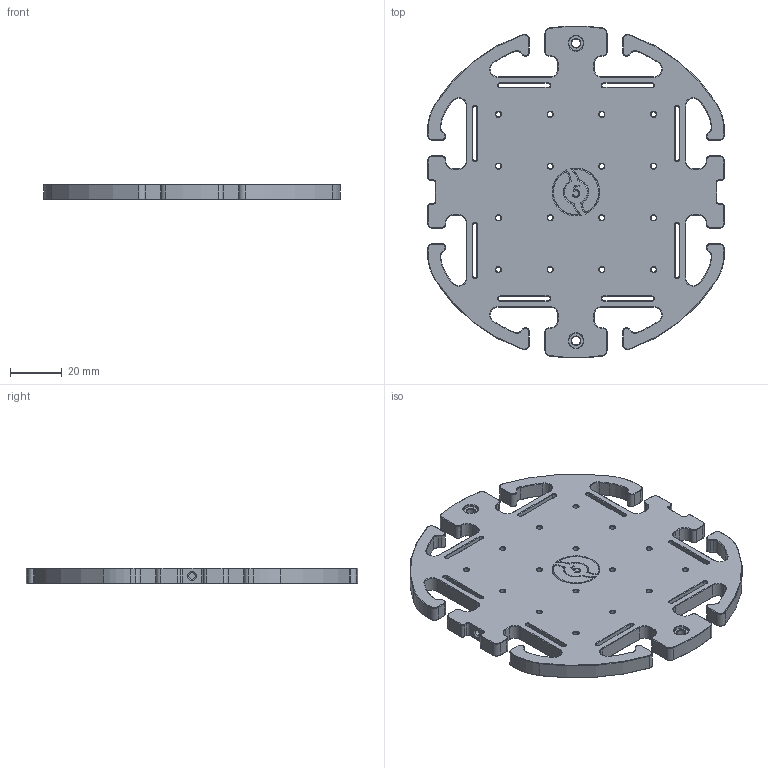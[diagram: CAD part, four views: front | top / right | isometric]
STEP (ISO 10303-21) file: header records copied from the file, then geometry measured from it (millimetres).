
FILE_DESCRIPTION (( 'STEP AP214' ), '1' );
FILE_NAME ('BR-103131-500_Rev_3.step', '2024-12-10T18:59:31', ( '' ), ( '' ), 'SwSTEP 2.0', 'SolidWorks 2024', '' );
FILE_SCHEMA (( 'AUTOMOTIVE_DESIGN' ));
Length unit declared in the file: millimetre
Products named in the file (1): BR-103131-500_Rev_3
Bounding box: 114.78 x 128.31 x 6 mm (x, y, z)
Volume: 59448.8 mm3; surface area: 28138.5 mm2
Topology: 1 solids, 1 shells, 771 faces, 1806 edges, 1046 vertices
Faces by surface type: cone 336, plane 251, cylinder 168, bspline 16
Entity records: 23130 total; most frequent: CARTESIAN_POINT 5179, DIRECTION 3946, ORIENTED_EDGE 3612, EDGE_CURVE 1806, AXIS2_PLACEMENT_3D 1444, VECTOR 1058, LINE 1058, VERTEX_POINT 1046
